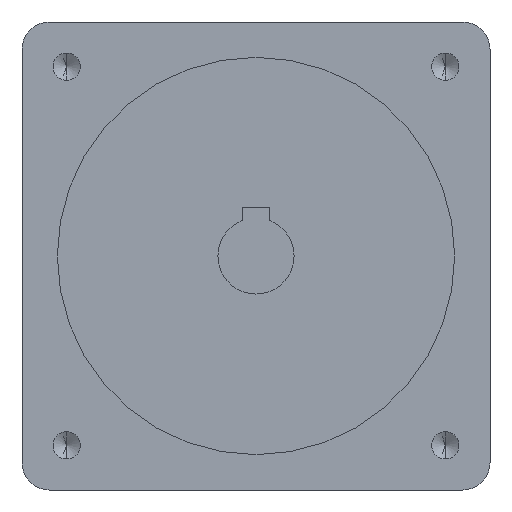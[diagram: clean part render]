
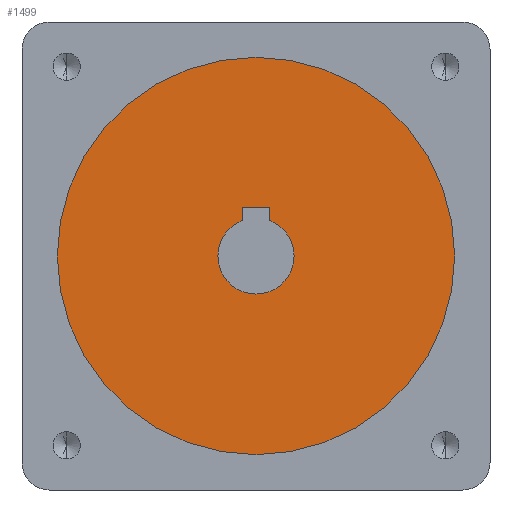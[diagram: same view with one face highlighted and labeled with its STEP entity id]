
A CAD part, front view. The second image highlights one B-rep face of the part: STEP entity #1499.
In plain terms, the highlighted planar face has unit normal (0, -1, 0).
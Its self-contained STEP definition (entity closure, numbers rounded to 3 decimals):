
#113 = EDGE_CURVE ( 'NONE', #2134, #260, #329, .T. ) ;
#127 = CARTESIAN_POINT ( 'NONE',  ( 2.5, -78., 6.538 ) ) ;
#171 = DIRECTION ( 'NONE',  ( 0., 0., -1. ) ) ;
#260 = VERTEX_POINT ( 'NONE', #2196 ) ;
#280 = AXIS2_PLACEMENT_3D ( 'NONE', #2238, #2235, #2228 ) ;
#294 = CIRCLE ( 'NONE', #840, 7. ) ;
#329 = CIRCLE ( 'NONE', #842, 7. ) ;
#347 = CIRCLE ( 'NONE', #280, 36.5 ) ;
#372 = CARTESIAN_POINT ( 'NONE',  ( -2.5, -78., 6.538 ) ) ;
#433 = ORIENTED_EDGE ( 'NONE', *, *, #1390, .F. ) ;
#474 = CARTESIAN_POINT ( 'NONE',  ( 0., -78., -36.5 ) ) ;
#514 = AXIS2_PLACEMENT_3D ( 'NONE', #1091, #1115, #1109 ) ;
#595 = AXIS2_PLACEMENT_3D ( 'NONE', #1442, #1431, #1428 ) ;
#707 = EDGE_CURVE ( 'NONE', #950, #859, #1579, .T. ) ;
#798 = VERTEX_POINT ( 'NONE', #127 ) ;
#840 = AXIS2_PLACEMENT_3D ( 'NONE', #2185, #2183, #2181 ) ;
#842 = AXIS2_PLACEMENT_3D ( 'NONE', #1379, #1570, #171 ) ;
#859 = VERTEX_POINT ( 'NONE', #474 ) ;
#912 = VECTOR ( 'NONE', #1102, 1000. ) ;
#940 = VECTOR ( 'NONE', #1179, 1000. ) ;
#941 = LINE ( 'NONE', #1173, #940 ) ;
#950 = VERTEX_POINT ( 'NONE', #2572 ) ;
#998 = LINE ( 'NONE', #1105, #912 ) ;
#1091 = CARTESIAN_POINT ( 'NONE',  ( 0., -78., 0. ) ) ;
#1095 = EDGE_CURVE ( 'NONE', #859, #950, #347, .T. ) ;
#1102 = DIRECTION ( 'NONE',  ( -1., 0., 0. ) ) ;
#1105 = CARTESIAN_POINT ( 'NONE',  ( 0., -78., 9. ) ) ;
#1109 = DIRECTION ( 'NONE',  ( 0., 0., -1. ) ) ;
#1112 = EDGE_CURVE ( 'NONE', #260, #798, #294, .T. ) ;
#1115 = DIRECTION ( 'NONE',  ( 0., -1., 0. ) ) ;
#1129 = VERTEX_POINT ( 'NONE', #2201 ) ;
#1173 = CARTESIAN_POINT ( 'NONE',  ( -2.5, -78., 0. ) ) ;
#1179 = DIRECTION ( 'NONE',  ( 0., 0., -1. ) ) ;
#1228 = ORIENTED_EDGE ( 'NONE', *, *, #113, .F. ) ;
#1254 = ORIENTED_EDGE ( 'NONE', *, *, #1662, .F. ) ;
#1342 = EDGE_LOOP ( 'NONE', ( #1915, #1366 ) ) ;
#1366 = ORIENTED_EDGE ( 'NONE', *, *, #707, .T. ) ;
#1369 = VERTEX_POINT ( 'NONE', #1713 ) ;
#1379 = CARTESIAN_POINT ( 'NONE',  ( 0., -78., 0. ) ) ;
#1390 = EDGE_CURVE ( 'NONE', #798, #1129, #2077, .T. ) ;
#1418 = FACE_BOUND ( 'NONE', #1737, .T. ) ;
#1428 = DIRECTION ( 'NONE',  ( 0., 0., -1. ) ) ;
#1431 = DIRECTION ( 'NONE',  ( 0., -1., 0. ) ) ;
#1442 = CARTESIAN_POINT ( 'NONE',  ( 0., -78., 0. ) ) ;
#1447 = FACE_OUTER_BOUND ( 'NONE', #1342, .T. ) ;
#1458 = ORIENTED_EDGE ( 'NONE', *, *, #1676, .F. ) ;
#1499 = ADVANCED_FACE ( 'NONE', ( #1418, #1447 ), #1502, .T. ) ;
#1502 = PLANE ( 'NONE',  #595 ) ;
#1551 = ORIENTED_EDGE ( 'NONE', *, *, #1112, .F. ) ;
#1570 = DIRECTION ( 'NONE',  ( 0., -1., 0. ) ) ;
#1579 = CIRCLE ( 'NONE', #514, 36.5 ) ;
#1662 = EDGE_CURVE ( 'NONE', #1369, #2134, #941, .T. ) ;
#1669 = DIRECTION ( 'NONE',  ( 0., 0., 1. ) ) ;
#1676 = EDGE_CURVE ( 'NONE', #1129, #1369, #998, .T. ) ;
#1700 = CARTESIAN_POINT ( 'NONE',  ( 2.5, -78., 0. ) ) ;
#1713 = CARTESIAN_POINT ( 'NONE',  ( -2.5, -78., 9. ) ) ;
#1737 = EDGE_LOOP ( 'NONE', ( #1228, #1254, #1458, #433, #1551 ) ) ;
#1915 = ORIENTED_EDGE ( 'NONE', *, *, #1095, .T. ) ;
#2047 = VECTOR ( 'NONE', #1669, 1000. ) ;
#2077 = LINE ( 'NONE', #1700, #2047 ) ;
#2134 = VERTEX_POINT ( 'NONE', #372 ) ;
#2181 = DIRECTION ( 'NONE',  ( 0., 0., -1. ) ) ;
#2183 = DIRECTION ( 'NONE',  ( 0., -1., 0. ) ) ;
#2185 = CARTESIAN_POINT ( 'NONE',  ( 0., -78., 0. ) ) ;
#2196 = CARTESIAN_POINT ( 'NONE',  ( 0., -78., -7. ) ) ;
#2201 = CARTESIAN_POINT ( 'NONE',  ( 2.5, -78., 9. ) ) ;
#2228 = DIRECTION ( 'NONE',  ( 0., 0., -1. ) ) ;
#2235 = DIRECTION ( 'NONE',  ( 0., -1., 0. ) ) ;
#2238 = CARTESIAN_POINT ( 'NONE',  ( 0., -78., 0. ) ) ;
#2572 = CARTESIAN_POINT ( 'NONE',  ( 0., -78., 36.5 ) ) ;
